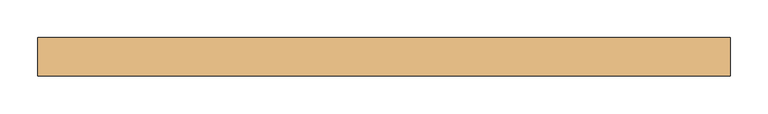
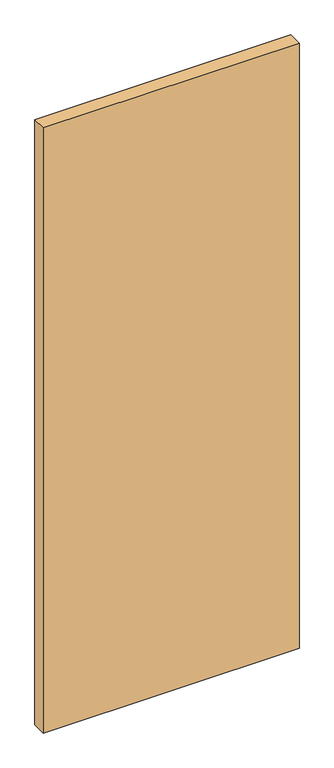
"""IFC4 building model written with IfcOpenShell, lengths in millimetres: door geometry, Planitar - Swap_Flush Panel : Planitar - Swap_Flush Panel."""

from ifc_helpers import new_model, si_unit, origin, origin_with_axes, place, context, project, spatial, polyline, outline, extrude, source, transform, mapped, element, save


def door_98445883(model_context):
    return source(origin(), model_context, "Body", "SweptSolid", [
        extrude(outline(polyline([(457.2, -25.4), (-457.2, -25.4), (-457.2, 25.4), (457.2, 25.4), (457.2, -25.4)])), origin_with_axes(), (0.0, 0.0, 1.0), 2286.0),
    ])


if __name__ == "__main__":
    model = new_model("IFC4")
    model_context = context("Model", 3, world=origin())
    ifc_project = project(units=[si_unit("LENGTHUNIT", "METRE", prefix="MILLI")], contexts=[model_context])
    site = spatial("IfcSite", under=ifc_project)
    building = spatial("IfcBuilding", under=site)
    placement = place(None, origin())
    door_shape = door_98445883(model_context)
    element("IfcDoor", 1, ObjectType="Planitar - Swap_Flush Panel : Planitar - Swap_Flush Panel", at=placement, inside=building, context=model_context, shape_type="MappedRepresentation", body=[
        mapped(door_shape, transform((0.0, 0.0, 0.0), x_axis=(1.0, 0.0, 0.0), y_axis=(0.0, 1.0, 0.0), z_axis=(0.0, 0.0, 1.0))),
    ])
    save(model, "model.ifc")
